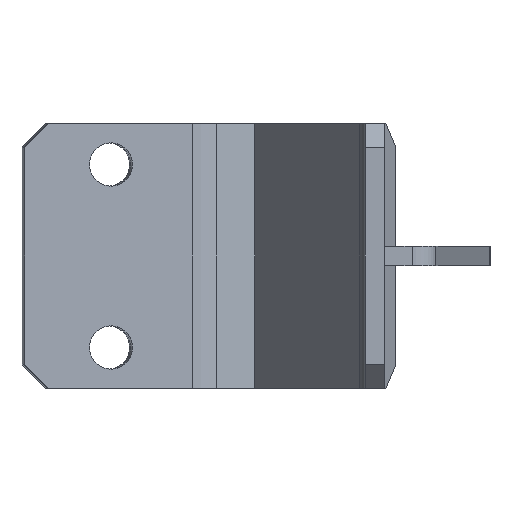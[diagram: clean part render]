
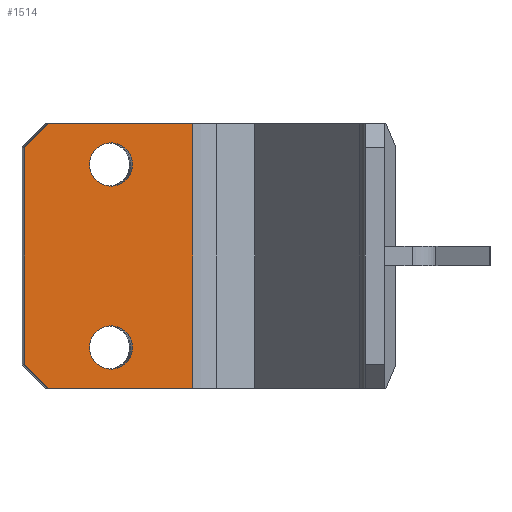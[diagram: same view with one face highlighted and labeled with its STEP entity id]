
A CAD part, left-side view. The second image highlights one B-rep face of the part: STEP entity #1514.
In plain terms, the highlighted planar face has unit normal (-0.996, -0.087, 0).
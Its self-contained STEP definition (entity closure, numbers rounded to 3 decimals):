
#239=FACE_BOUND('',#427,.T.);
#240=FACE_BOUND('',#428,.T.);
#272=CIRCLE('',#1624,4.5);
#274=CIRCLE('',#1627,4.5);
#349=FACE_OUTER_BOUND('',#426,.T.);
#426=EDGE_LOOP('',(#1247,#1248,#1249,#1250,#1251,#1252));
#427=EDGE_LOOP('',(#1253));
#428=EDGE_LOOP('',(#1254));
#535=LINE('',#2329,#676);
#541=LINE('',#2340,#682);
#547=LINE('',#2352,#688);
#548=LINE('',#2355,#689);
#549=LINE('',#2357,#690);
#550=LINE('',#2358,#691);
#676=VECTOR('',#1901,10.);
#682=VECTOR('',#1909,10.);
#688=VECTOR('',#1919,10.);
#689=VECTOR('',#1922,10.);
#690=VECTOR('',#1923,10.);
#691=VECTOR('',#1924,10.);
#807=VERTEX_POINT('',#2305);
#809=VERTEX_POINT('',#2311);
#814=VERTEX_POINT('',#2327);
#815=VERTEX_POINT('',#2328);
#819=VERTEX_POINT('',#2338);
#823=VERTEX_POINT('',#2350);
#824=VERTEX_POINT('',#2354);
#825=VERTEX_POINT('',#2356);
#955=EDGE_CURVE('',#807,#807,#272,.T.);
#958=EDGE_CURVE('',#809,#809,#274,.T.);
#965=EDGE_CURVE('',#814,#815,#535,.T.);
#971=EDGE_CURVE('',#814,#819,#541,.T.);
#977=EDGE_CURVE('',#823,#819,#547,.T.);
#978=EDGE_CURVE('',#824,#823,#548,.T.);
#979=EDGE_CURVE('',#825,#824,#549,.T.);
#980=EDGE_CURVE('',#815,#825,#550,.T.);
#1247=ORIENTED_EDGE('',*,*,#965,.F.);
#1248=ORIENTED_EDGE('',*,*,#971,.T.);
#1249=ORIENTED_EDGE('',*,*,#977,.F.);
#1250=ORIENTED_EDGE('',*,*,#978,.F.);
#1251=ORIENTED_EDGE('',*,*,#979,.F.);
#1252=ORIENTED_EDGE('',*,*,#980,.F.);
#1253=ORIENTED_EDGE('',*,*,#955,.T.);
#1254=ORIENTED_EDGE('',*,*,#958,.T.);
#1451=PLANE('',#1638);
#1514=ADVANCED_FACE('',(#349,#239,#240),#1451,.T.);
#1624=AXIS2_PLACEMENT_3D('',#2307,#1876,#1877);
#1627=AXIS2_PLACEMENT_3D('',#2313,#1883,#1884);
#1638=AXIS2_PLACEMENT_3D('',#2353,#1920,#1921);
#1876=DIRECTION('center_axis',(0.996,0.087,0.));
#1877=DIRECTION('ref_axis',(0.,0.,-1.));
#1883=DIRECTION('center_axis',(0.996,0.087,0.));
#1884=DIRECTION('ref_axis',(0.,0.,-1.));
#1901=DIRECTION('',(0.062,-0.704,0.707));
#1909=DIRECTION('',(0.,0.,-1.));
#1919=DIRECTION('',(-0.062,0.704,0.707));
#1920=DIRECTION('center_axis',(-0.996,-0.087,0.));
#1921=DIRECTION('ref_axis',(-0.087,0.996,0.));
#1922=DIRECTION('',(-0.087,0.996,0.));
#1923=DIRECTION('',(0.,0.,-1.));
#1924=DIRECTION('',(0.087,-0.996,0.));
#2305=CARTESIAN_POINT('',(83.929,56.768,-14.5));
#2307=CARTESIAN_POINT('Origin',(83.929,56.768,-19.));
#2311=CARTESIAN_POINT('',(83.929,56.768,23.5));
#2313=CARTESIAN_POINT('Origin',(83.929,56.768,19.));
#2327=CARTESIAN_POINT('',(82.365,74.643,22.5));
#2328=CARTESIAN_POINT('',(82.801,69.662,27.5));
#2329=CARTESIAN_POINT('',(83.346,63.436,33.75));
#2338=CARTESIAN_POINT('',(82.365,74.643,-22.5));
#2340=CARTESIAN_POINT('',(82.365,74.643,27.5));
#2350=CARTESIAN_POINT('',(82.801,69.662,-27.5));
#2352=CARTESIAN_POINT('',(82.147,77.133,-20.));
#2353=CARTESIAN_POINT('Origin',(85.416,39.776,27.5));
#2354=CARTESIAN_POINT('',(85.416,39.776,-27.5));
#2355=CARTESIAN_POINT('',(85.661,36.968,-27.5));
#2356=CARTESIAN_POINT('',(85.416,39.776,27.5));
#2357=CARTESIAN_POINT('',(85.416,39.776,27.5));
#2358=CARTESIAN_POINT('',(82.365,74.643,27.5));
